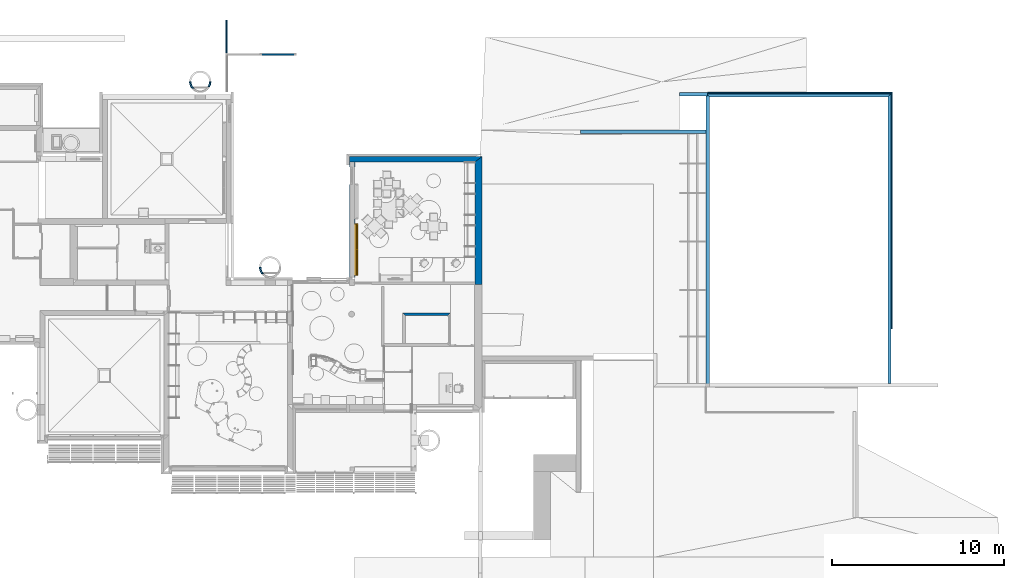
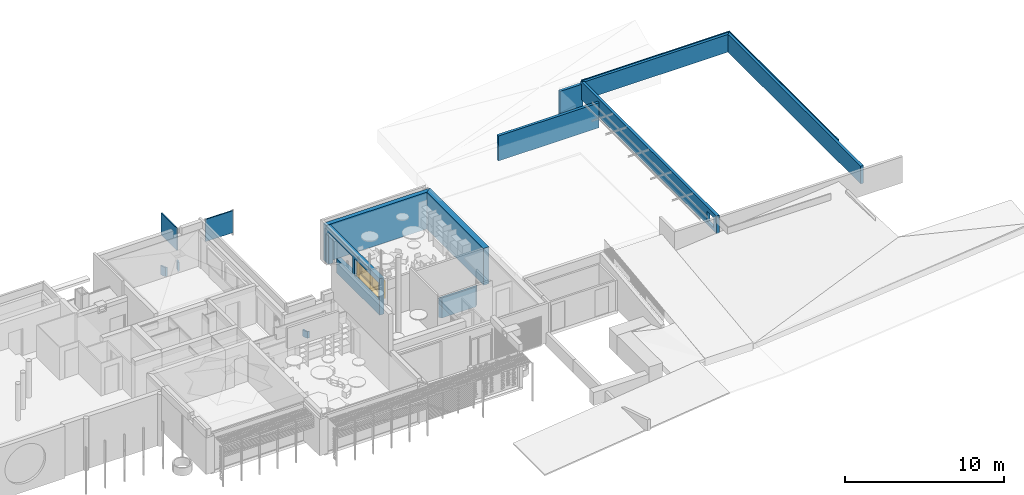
# One storey, part 27 of 64: 16 walls, 1 window, 4 openings.
"""IFC2X3 building model written with IfcOpenShell, lengths in metres."""

from ifc_helpers import new_model, entity, si_unit, converted_unit, derived_unit, direction, frame, frame_2d, origin, origin_2d_with_axis, place, context, subcontext, project, spatial, polyline, circle_curve, parameter, trimmed, segment, composite_curve, rectangle, outline, extrude, faceted_brep, source, transform, mapped, material, layer, layer_set, layer_usage, type_object, type_shapes, element, fill, save


model = new_model("IFC2X3")

# Units and contexts
model_context = context("Model", 3, precision=1e-05, world=origin(), true_north=direction((6.123031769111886e-17, 1.0)))
body_context = subcontext(model_context, "Body", "Model", "MODEL_VIEW")
ifc_project = project(units=[si_unit("LENGTHUNIT", "METRE"), si_unit("AREAUNIT", "SQUARE_METRE"), si_unit("VOLUMEUNIT", "CUBIC_METRE"), converted_unit("PLANEANGLEUNIT", "DEGREE", entity("IfcRatioMeasure", 0.017453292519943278), si_unit("PLANEANGLEUNIT", "RADIAN"), dimensions=[0, 0, 0, 0, 0, 0, 0]), si_unit("MASSUNIT", "GRAM", prefix="KILO"), derived_unit("MASSDENSITYUNIT", [(si_unit("MASSUNIT", "GRAM", prefix="KILO"), 1), (si_unit("LENGTHUNIT", "METRE"), -3)]), derived_unit("MOMENTOFINERTIAUNIT", [(si_unit("LENGTHUNIT", "METRE"), 4)]), si_unit("TIMEUNIT", "SECOND"), si_unit("FREQUENCYUNIT", "HERTZ"), si_unit("THERMODYNAMICTEMPERATUREUNIT", "DEGREE_CELSIUS"), derived_unit("THERMALTRANSMITTANCEUNIT", [(si_unit("MASSUNIT", "GRAM", prefix="KILO"), 1), (si_unit("THERMODYNAMICTEMPERATUREUNIT", "KELVIN"), -1), (si_unit("TIMEUNIT", "SECOND"), -3)]), derived_unit("THERMALCONDUCTANCEUNIT", [(si_unit("MASSUNIT", "GRAM", prefix="KILO"), 1), (si_unit("LENGTHUNIT", "METRE"), 1), (si_unit("THERMODYNAMICTEMPERATUREUNIT", "KELVIN"), -1), (si_unit("TIMEUNIT", "SECOND"), -3)]), derived_unit("VOLUMETRICFLOWRATEUNIT", [(si_unit("LENGTHUNIT", "METRE"), 3), (si_unit("TIMEUNIT", "SECOND"), -1)]), derived_unit("MASSFLOWRATEUNIT", [(si_unit("MASSUNIT", "GRAM", prefix="KILO"), 1), (si_unit("TIMEUNIT", "SECOND"), -1)]), derived_unit("ROTATIONALFREQUENCYUNIT", [(si_unit("TIMEUNIT", "SECOND"), -1)]), si_unit("ELECTRICCURRENTUNIT", "AMPERE"), si_unit("ELECTRICVOLTAGEUNIT", "VOLT"), si_unit("POWERUNIT", "WATT"), si_unit("FORCEUNIT", "NEWTON", prefix="KILO"), si_unit("ILLUMINANCEUNIT", "LUX"), si_unit("LUMINOUSFLUXUNIT", "LUMEN"), si_unit("LUMINOUSINTENSITYUNIT", "CANDELA"), derived_unit("USERDEFINED", [(si_unit("MASSUNIT", "GRAM", prefix="KILO"), -1), (si_unit("LENGTHUNIT", "METRE"), -2), (si_unit("TIMEUNIT", "SECOND"), 3), (si_unit("LUMINOUSFLUXUNIT", "LUMEN"), 1)]), derived_unit("USERDEFINED", [(si_unit("MASSUNIT", "GRAM", prefix="KILO"), 1), (si_unit("LENGTHUNIT", "METRE"), 3), (si_unit("TIMEUNIT", "SECOND"), -3), (si_unit("ELECTRICCURRENTUNIT", "AMPERE"), -2)]), derived_unit("USERDEFINED", [(si_unit("LENGTHUNIT", "METRE"), 2), (si_unit("TIMEUNIT", "SECOND"), -2)]), derived_unit("SOUNDPOWERUNIT", [(si_unit("MASSUNIT", "GRAM", prefix="KILO"), 1), (si_unit("LENGTHUNIT", "METRE"), 2), (si_unit("TIMEUNIT", "SECOND"), -3)]), derived_unit("SOUNDPRESSUREUNIT", [(si_unit("MASSUNIT", "GRAM", prefix="KILO"), 1), (si_unit("LENGTHUNIT", "METRE"), -1), (si_unit("TIMEUNIT", "SECOND"), -2)]), derived_unit("LINEARVELOCITYUNIT", [(si_unit("LENGTHUNIT", "METRE"), 1), (si_unit("TIMEUNIT", "SECOND"), -1)]), si_unit("PRESSUREUNIT", "PASCAL"), derived_unit("USERDEFINED", [(si_unit("LENGTHUNIT", "METRE"), -2), (si_unit("MASSUNIT", "GRAM", prefix="KILO"), 1), (si_unit("TIMEUNIT", "SECOND"), -2)]), derived_unit("LINEARFORCEUNIT", [(si_unit("MASSUNIT", "GRAM", prefix="KILO"), 1), (si_unit("LENGTHUNIT", "METRE"), 1), (si_unit("TIMEUNIT", "SECOND"), -2), (si_unit("LENGTHUNIT", "METRE"), -1)]), derived_unit("PLANARFORCEUNIT", [(si_unit("MASSUNIT", "GRAM", prefix="KILO"), 1), (si_unit("LENGTHUNIT", "METRE"), 1), (si_unit("TIMEUNIT", "SECOND"), -2), (si_unit("LENGTHUNIT", "METRE"), -2)]), derived_unit("SPECIFICHEATCAPACITYUNIT", [(si_unit("LENGTHUNIT", "METRE"), 2), (si_unit("TIMEUNIT", "SECOND"), -2), (si_unit("THERMODYNAMICTEMPERATUREUNIT", "KELVIN"), -1)]), derived_unit("VAPORPERMEABILITYUNIT", [(si_unit("TIMEUNIT", "SECOND"), 1), (si_unit("LENGTHUNIT", "METRE"), -1)]), derived_unit("DYNAMICVISCOSITYUNIT", [(si_unit("MASSUNIT", "GRAM", prefix="KILO"), 1), (si_unit("LENGTHUNIT", "METRE"), -1), (si_unit("TIMEUNIT", "SECOND"), -1)]), derived_unit("THERMALEXPANSIONCOEFFICIENTUNIT", [(si_unit("THERMODYNAMICTEMPERATUREUNIT", "KELVIN"), -1)])], contexts=[model_context])

# Site, building, storey
site_placement = place(None, origin())
site = spatial("IfcSite", under=ifc_project, at=site_placement, Name="Default", CompositionType="ELEMENT")
building_placement = place(site_placement, origin())
building = spatial("IfcBuilding", under=site, at=building_placement, CompositionType="ELEMENT")
storey_placement = place(building_placement, origin())
storey = spatial("IfcBuildingStorey", under=building, at=storey_placement, Name="REZ-DE-CHAUSSÉE", CompositionType="ELEMENT", Elevation=0.0)

# Wall
ifc_material_1 = material(Name="Appareillage - Pierre taillé")
ifc_layer_1 = layer(ifc_material_1, 0.31)
ifc_layer_set_1 = layer_set([ifc_layer_1], Name="Mur de base:Struct. - Pierre 310")
ifc_layer_usage_1 = layer_usage(ifc_layer_set_1, "AXIS2", "NEGATIVE", 0.155)
wall_type_1 = type_object("IfcWallType", Name="Mur de base:Struct. - Pierre 310", PredefinedType="STANDARD", material=ifc_layer_set_1)
wall_1_placement = place(storey_placement, frame((120.68075227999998, 22.342209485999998, 0.0)))
element("IfcWallStandardCase", 1, at=wall_1_placement, inside=storey, type_object=wall_type_1, material=ifc_layer_usage_1, Name="MurExt-001", ObjectType="Mur de base:Struct. - Pierre 310", context=body_context, shape_type="SweptSolid", body=[
    extrude(outline(polyline([(7.310000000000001, -0.15499999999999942), (7.720000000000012, 0.15499999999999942), (0.0, 0.15499999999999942), (0.0, -0.15499999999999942), (0.04000000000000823, -0.15499999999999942), (0.29000000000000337, -0.15499999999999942), (0.3299999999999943, -0.15499999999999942), (7.310000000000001, -0.15499999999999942)])), origin(), (0.0, 0.0, 1.0), 2.8199999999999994),
])

# Wall, opening
ifc_material_2 = material(Name="Béton - Parpaing (Blocs)")
ifc_layer_2 = layer(ifc_material_2, 0.2)
ifc_layer_set_2 = layer_set([ifc_layer_2], Name="Mur de base:Struct. - Parpaing béton 200")
ifc_layer_usage_2 = layer_usage(ifc_layer_set_2, "AXIS2", "NEGATIVE", 0.1)
wall_type_2 = type_object("IfcWallType", Name="Mur de base:Struct. - Parpaing béton 200", PredefinedType="STANDARD", material=ifc_layer_set_2)
wall_2_placement = place(storey_placement, frame((141.56275227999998, 9.087209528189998, 2.8499999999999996), z_axis=(0.0, 0.0, 1.0), x_axis=(0.0, 1.0, 0.0)))
wall_2 = element("IfcWallStandardCase", 2, at=wall_2_placement, inside=storey, type_object=wall_type_2, material=ifc_layer_usage_2, Name="MurExt-021", ObjectType="Mur de base:Struct. - Parpaing béton 200", context=body_context, shape_type="SweptSolid", body=[
    extrude(outline(polyline([(16.887999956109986, -0.10000000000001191), (17.08799995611, 0.0999999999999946), (0.2, 0.0999999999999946), (0.0, 0.0999999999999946), (0.0, 0.0), (0.0, -0.10000000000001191), (0.2, -0.10000000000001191), (16.887999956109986, -0.10000000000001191)])), origin(), (0.0, 0.0, 1.0), 1.3600000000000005),
])
opening_1_placement = place(wall_2_placement, origin())
element("IfcOpeningElement", 3, at=opening_1_placement, cuts=wall_2, Name="MurExt-021", ObjectType="Opening", context=body_context, shape_type="SweptSolid", body=[
    extrude(rectangle(XDim=0.8, YDim=0.8, at=origin_2d_with_axis()), frame((0.8000000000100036, -0.3000000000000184, 0.6200000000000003), z_axis=(0.0, 1.0, 0.0), x_axis=(0.0, 0.0, -1.0)), (0.0, 0.0, 1.0), 0.400000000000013),
])

# Walls
wall_3_placement = place(storey_placement, frame((141.46275228, 26.0752094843, 2.8499999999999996)))
element("IfcWallStandardCase", 4, at=wall_3_placement, inside=storey, type_object=wall_type_2, material=ifc_layer_usage_2, Name="MurExt-024", ObjectType="Mur de base:Struct. - Parpaing béton 200", context=body_context, shape_type="SweptSolid", body=[
    extrude(outline(polyline([(10.576000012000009, -0.09999999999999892), (10.776000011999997, 0.09999999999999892), (0.0, 0.09999999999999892), (0.1999999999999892, -0.09999999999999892), (10.576000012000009, -0.09999999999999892)])), origin(), (0.0, 0.0, 1.0), 1.3600000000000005),
])
wall_4_placement = place(storey_placement, frame((152.138752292, 26.1752094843, 2.8499999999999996), z_axis=(0.0, 0.0, 1.0), x_axis=(0.0, -1.0, 0.0)))
element("IfcWallStandardCase", 5, at=wall_4_placement, inside=storey, type_object=wall_type_2, material=ifc_layer_usage_2, Name="MurExt-023", ObjectType="Mur de base:Struct. - Parpaing béton 200", context=body_context, shape_type="SweptSolid", body=[
    extrude(outline(polyline([(16.88799995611, -0.10000000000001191), (16.88799995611, 0.0999999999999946), (0.0, 0.0999999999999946), (0.20000000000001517, -0.10000000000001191), (16.88799995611, -0.10000000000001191)])), origin(), (0.0, 0.0, 1.0), 1.3600000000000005),
])
wall_5_placement = place(storey_placement, frame((141.46275228, 23.937209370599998, 2.05), z_axis=(0.0, 0.0, 1.0), x_axis=(-1.0, 0.0, 0.0)))
element("IfcWallStandardCase", 6, at=wall_5_placement, inside=storey, type_object=wall_type_2, material=ifc_layer_usage_2, Name="MurExt-021", ObjectType="Mur de base:Struct. - Parpaing béton 200", context=body_context, shape_type="SweptSolid", body=[
    extrude(rectangle(XDim=7.311999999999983, YDim=0.19999999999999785, at=frame_2d((3.6559999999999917, 0.0), x_axis=(-1.0, 0.0))), origin(), (0.0, 0.0, 1.0), 1.92),
])
wall_6_placement = place(storey_placement, frame((141.54075228, 26.137235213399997, 2.05), z_axis=(0.0, 0.0, 1.0), x_axis=(-1.0, 0.0, 0.0)))
element("IfcWallStandardCase", 7, at=wall_6_placement, inside=storey, type_object=wall_type_2, material=ifc_layer_usage_2, Name="MurExt-021", ObjectType="Mur de base:Struct. - Parpaing béton 200", context=body_context, shape_type="SweptSolid", body=[
    extrude(rectangle(XDim=1.6399998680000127, YDim=0.19999999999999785, at=frame_2d((0.8199999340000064, 0.0), x_axis=(-1.0, 0.0))), origin(), (0.0, 0.0, 1.0), 2.0),
])
ifc_layer_3 = layer(ifc_material_1, 0.4099999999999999)
ifc_layer_set_3 = layer_set([ifc_layer_3], Name="Mur de base:Struct. - Pierre 410")
ifc_layer_usage_3 = layer_usage(ifc_layer_set_3, "AXIS2", "NEGATIVE", 0.20499999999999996)
wall_type_3 = type_object("IfcWallType", Name="Mur de base:Struct. - Pierre 410", PredefinedType="STANDARD", material=ifc_layer_set_3)
wall_7_placement = place(storey_placement, frame((128.19575228, 22.497209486, 0.0), z_axis=(0.0, 0.0, 1.0), x_axis=(0.0, -1.0, 0.0)))
element("IfcWallStandardCase", 8, at=wall_7_placement, inside=storey, type_object=wall_type_3, material=ifc_layer_usage_3, Name="MurExt-002", ObjectType="Mur de base:Struct. - Pierre 410", context=body_context, shape_type="SweptSolid", body=[
    extrude(outline(polyline([(7.450000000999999, -0.20499999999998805), (7.450000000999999, 0.20500000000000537), (0.0, 0.20500000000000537), (0.30999999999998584, -0.20499999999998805), (7.290000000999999, -0.20499999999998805), (7.450000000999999, -0.20499999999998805)])), origin(), (0.0, 0.0, 1.0), 2.8199999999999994),
])
ifc_layer_4 = layer(ifc_material_1, 0.16)
ifc_layer_set_4 = layer_set([ifc_layer_4], Name="Mur de base:Struct. - Pierre 160")
ifc_layer_usage_4 = layer_usage(ifc_layer_set_4, "AXIS2", "NEGATIVE", 0.08)
wall_type_4 = type_object("IfcWallType", Name="Mur de base:Struct. - Pierre 160", PredefinedType="STANDARD", material=ifc_layer_set_4)
wall_8_placement = place(storey_placement, frame((123.79075228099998, 13.327209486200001, 0.0)))
element("IfcWallStandardCase", 9, at=wall_8_placement, inside=storey, type_object=wall_type_4, material=ifc_layer_usage_4, Name="MurExt-012", ObjectType="Mur de base:Struct. - Pierre 160", context=body_context, shape_type="SweptSolid", body=[
    extrude(outline(polyline([(2.610000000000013, -0.0800000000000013), (2.6250000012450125, -0.06499999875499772), (2.7700000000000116, 0.07999999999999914), (0.0, 0.07999999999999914), (0.15999999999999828, -0.0800000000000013), (2.610000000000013, -0.0800000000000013)])), origin(), (0.0, 0.0, 1.0), 1.53),
])
ifc_layer_5 = layer(ifc_material_1, 0.1)
ifc_layer_set_5 = layer_set([ifc_layer_5], Name="Mur de base:Struct. - Pierre 100")
ifc_layer_usage_5 = layer_usage(ifc_layer_set_5, "AXIS2", "POSITIVE", -0.05)
wall_type_5 = type_object("IfcWallType", Name="Mur de base:Struct. - Pierre 100", PredefinedType="STANDARD", material=ifc_layer_set_5)
wall_9_placement = place(storey_placement, frame((111.60800783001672, 26.4404170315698, -0.49999999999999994), z_axis=(0.0, 0.0, 1.0), x_axis=(-1.0, 0.0, 0.0)))
element("IfcWallStandardCase", 10, at=wall_9_placement, inside=storey, type_object=wall_type_5, material=ifc_layer_usage_5, Name="MurExt-004", ObjectType="Mur de base:Struct. - Pierre 100", context=body_context, shape_type="SweptSolid", body=[
    extrude(outline(composite_curve([segment(trimmed(circle_curve(frame_2d((-0.3927444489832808, -0.4267924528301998), x_axis=(1.0, 0.0)), 0.63), [parameter(0.0)], [parameter(38.24661987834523)], True, "PARAMETER"), True, "CONTINUOUS"), segment(polyline([(0.1020282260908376, -0.03679245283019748), (-0.0338572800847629, -0.03679245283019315)]), True, "CONTINUOUS"), segment(trimmed(circle_curve(frame_2d((-0.3927444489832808, -0.4267924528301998), x_axis=(1.0, 0.0)), 0.53), [parameter(33.17306602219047)], [parameter(47.37900904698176)], True, "PARAMETER"), False, "CONTINUOUS"), segment(trimmed(circle_curve(frame_2d((-0.3927444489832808, -0.4267924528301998), x_axis=(1.0, 0.0)), 0.53), [parameter(4.579998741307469e-13)], [parameter(33.17306602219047)], True, "PARAMETER"), False, "CONTINUOUS"), segment(polyline([(0.13725555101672, -0.42679245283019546), (0.23725555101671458, -0.4267924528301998)]), True, "CONTINUOUS")], self_intersect=False)), origin(), (0.0, 0.0, 1.0), 0.7),
])
wall_10_placement = place(storey_placement, frame((115.67800782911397, 15.630417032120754, -0.1), z_axis=(0.0, 0.0, 1.0), x_axis=(-1.0, 0.0, 0.0)))
element("IfcWallStandardCase", 11, at=wall_10_placement, inside=storey, type_object=wall_type_5, material=ifc_layer_usage_5, Name="MurExt-004", ObjectType="Mur de base:Struct. - Pierre 100", context=body_context, shape_type="SweptSolid", body=[
    extrude(outline(composite_curve([segment(trimmed(circle_curve(frame_2d((-0.3927444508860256, -0.42679245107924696), x_axis=(1.0, 0.0)), 0.63), [parameter(0.0)], [parameter(38.24661969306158)], True, "PARAMETER"), True, "CONTINUOUS"), segment(polyline([(0.10202822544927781, -0.0367924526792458), (-0.033857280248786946, -0.03679245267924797)]), True, "CONTINUOUS"), segment(trimmed(circle_curve(frame_2d((-0.3927444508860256, -0.42679245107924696), x_axis=(1.0, 0.0)), 0.53), [parameter(33.17306581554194)], [parameter(47.37900879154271)], True, "PARAMETER"), False, "CONTINUOUS"), segment(trimmed(circle_curve(frame_2d((-0.3927444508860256, -0.42679245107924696), x_axis=(1.0, 0.0)), 0.53), [parameter(4.579998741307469e-13)], [parameter(33.17306581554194)], True, "PARAMETER"), False, "CONTINUOUS"), segment(polyline([(0.13725554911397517, -0.42679245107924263), (0.23725554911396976, -0.42679245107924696)]), True, "CONTINUOUS")], self_intersect=False)), origin(), (0.0, 0.0, 1.0), 0.49999999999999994),
])
wall_11_placement = place(storey_placement, frame((112.58075227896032, 26.867209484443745, -0.49999999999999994), z_axis=(0.0, 0.0, 1.0), x_axis=(0.7853534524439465, -0.6190476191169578, 0.0)))
element("IfcWallStandardCase", 12, at=wall_11_placement, inside=storey, type_object=wall_type_5, material=ifc_layer_usage_5, Name="MurExt-004", ObjectType="Mur de base:Struct. - Pierre 100", context=body_context, shape_type="SweptSolid", body=[
    extrude(outline(composite_curve([segment(trimmed(circle_curve(frame_2d((-0.455505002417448, -0.3590476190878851), x_axis=(1.0, 0.0)), 0.6300000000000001), [parameter(10.839025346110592)], [parameter(38.246619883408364)], True, "PARAMETER"), True, "CONTINUOUS"), segment(polyline([(0.03926767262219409, 0.03095238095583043), (-0.039267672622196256, -0.03095238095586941)]), True, "CONTINUOUS"), segment(trimmed(circle_curve(frame_2d((-0.455505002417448, -0.3590476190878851), x_axis=(1.0, 0.0)), 0.5300000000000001), [parameter(5.073553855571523)], [parameter(38.246619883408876)], True, "PARAMETER"), False, "CONTINUOUS"), segment(polyline([(0.07241845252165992, -0.31217731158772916), (0.1632554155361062, -0.24057591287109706)]), True, "CONTINUOUS")], self_intersect=False)), origin(), (0.0, 0.0, 1.0), 0.7000000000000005),
])
ifc_material_3 = material(Name="Enduit - Jaune nature")
ifc_layer_6 = layer(ifc_material_3, 0.022)
ifc_material_4 = material(Name="Isolation - Fibre de verre")
ifc_layer_7 = layer(ifc_material_4, 0.04)
ifc_layer_set_6 = layer_set([ifc_layer_6, ifc_layer_7], Name="Mur de base:ABA ITE enduit soubassements 62")
ifc_layer_usage_6 = layer_usage(ifc_layer_set_6, "AXIS2", "NEGATIVE", 0.031)
wall_type_6 = type_object("IfcWallType", Name="Mur de base:ABA ITE enduit soubassements 62", PredefinedType="STANDARD", material=ifc_layer_set_6)
wall_12_placement = place(storey_placement, frame((152.269752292, 26.2372094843, 3.9099999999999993), z_axis=(0.0, 0.0, 1.0), x_axis=(0.0, -1.0, 0.0)))
element("IfcWallStandardCase", 13, at=wall_12_placement, inside=storey, type_object=wall_type_6, material=ifc_layer_usage_6, Name="MurExt-022", ObjectType="Mur de base:ABA ITE enduit soubassements 62", context=body_context, shape_type="SweptSolid", body=[
    extrude(outline(polyline([(13.750000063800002, -0.03100000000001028), (13.750000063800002, 0.030999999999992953), (0.0, 0.030999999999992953), (0.06200000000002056, -0.03100000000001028), (13.750000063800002, -0.03100000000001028)])), origin(), (0.0, 0.0, 1.0), 0.3400000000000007),
])
wall_13_placement = place(storey_placement, frame((141.54075228, 26.206209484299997, 3.9099999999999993)))
element("IfcWallStandardCase", 14, at=wall_13_placement, inside=storey, type_object=wall_type_6, material=ifc_layer_usage_6, Name="MurExt-023", ObjectType="Mur de base:ABA ITE enduit soubassements 62", context=body_context, shape_type="SweptSolid", body=[
    extrude(outline(polyline([(10.698000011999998, -0.030999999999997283), (10.760000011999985, 0.031000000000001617), (0.0, 0.031000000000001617), (0.0, -0.030999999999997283), (10.698000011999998, -0.030999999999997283)])), origin(), (0.0, 0.0, 1.0), 0.3400000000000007),
])

# Wall, openings, window
ifc_material_5 = material(Name="Métal - Fer")
ifc_layer_8 = layer(ifc_material_5, 0.037)
ifc_material_6 = material(Name="Air - Vide d'air")
ifc_layer_9 = layer(ifc_material_6, 0.035)
ifc_layer_10 = layer(ifc_material_4, 0.04)
ifc_layer_11 = layer(ifc_material_4, 0.145)
ifc_material_7 = material(Name="Bois - Panneaux de particules")
ifc_layer_12 = layer(ifc_material_7, 0.012)
ifc_layer_13 = layer(ifc_material_6, 0.048)
ifc_material_8 = material(Name="Plâtre - Plaques de plâtre")
ifc_layer_14 = layer(ifc_material_8, 0.013)
ifc_layer_set_7 = layer_set([ifc_layer_8, ifc_layer_9, ifc_layer_10, ifc_layer_11, ifc_layer_12, ifc_layer_13, ifc_layer_14], Name="Mur de base:ABA MOB ITE bardage 330")
ifc_layer_usage_7 = layer_usage(ifc_layer_set_7, "AXIS2", "NEGATIVE", 0.165)
wall_type_7 = type_object("IfcWallType", Name="Mur de base:ABA MOB ITE bardage 330", PredefinedType="STANDARD", material=ifc_layer_set_7)
wall_14_placement = place(storey_placement, frame((120.84575227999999, 15.467209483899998, 0.0), z_axis=(0.0, 0.0, 1.0), x_axis=(0.0, 1.0, 0.0)))
wall_14 = element("IfcWallStandardCase", 15, at=wall_14_placement, inside=storey, type_object=wall_type_7, material=ifc_layer_usage_7, Name="MurExt-010", ObjectType="Mur de base:ABA MOB ITE bardage 330", context=body_context, shape_type="SweptSolid", body=[
    extrude(rectangle(XDim=6.720000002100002, YDim=0.3299999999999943, at=frame_2d((3.360000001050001, 0.0), x_axis=(1.0, 0.0))), origin(), (0.0, 0.0, 1.0), 2.8),
])
opening_2_placement = place(wall_14_placement, frame((-15.467209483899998, 120.84575227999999, 0.0), z_axis=(0.0, 0.0, 1.0), x_axis=(0.0, -1.0, 0.0)))
element("IfcOpeningElement", 16, at=opening_2_placement, cuts=wall_14, Name="MurExt-010", ObjectType="Opening", context=body_context, shape_type="SweptSolid", body=[
    extrude(rectangle(XDim=2.44, YDim=1.0400000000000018, at=frame_2d((0.0, 2.1649348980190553e-15), x_axis=(1.0, 0.0))), frame((121.17905227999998, 21.38720948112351, 1.22), z_axis=(-1.0, 0.0, 0.0), x_axis=(0.0, 0.0, -1.0)), (0.0, 0.0, 1.0), 0.6666000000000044),
])
opening_3_placement = place(wall_14_placement, frame((-15.467209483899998, 120.84575227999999, 0.0), z_axis=(0.0, 0.0, 1.0), x_axis=(0.0, -1.0, 0.0)))
element("IfcOpeningElement", 17, at=opening_3_placement, cuts=wall_14, Name="MurExt-010", ObjectType="Opening", context=body_context, shape_type="SweptSolid", body=[
    extrude(rectangle(XDim=1.36, YDim=2.04, at=frame_2d((0.0, -2.1094237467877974e-15), x_axis=(1.0, 0.0))), frame((121.17905227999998, 19.88720948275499, 1.7599999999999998), z_axis=(-1.0, 0.0, 0.0), x_axis=(0.0, 0.0, -1.0)), (0.0, 0.0, 1.0), 0.6666000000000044),
])
opening_4_placement = place(wall_14_placement, frame((-15.467209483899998, 120.84575227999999, 0.0), z_axis=(0.0, 0.0, 1.0), x_axis=(0.0, -1.0, 0.0)))
opening_4 = element("IfcOpeningElement", 18, at=opening_4_placement, cuts=wall_14, Name="MurExt-010", ObjectType="Opening", context=body_context, shape_type="SweptSolid", body=[
    extrude(rectangle(XDim=1.36, YDim=3.04, at=frame_2d((-9.992007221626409e-16, 0.0), x_axis=(0.0, 1.0))), frame((121.17905227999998, 17.087209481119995, 1.7599999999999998), z_axis=(-1.0, 0.0, 0.0), x_axis=(0.0, -1.0, 0.0)), (0.0, 0.0, 1.0), 0.6666000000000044),
])
ifc_material_9 = material(Name="Peinture - Anthracite")
window_style = type_object("IfcWindowStyle", Name="Fen-003", ConstructionType="NOTDEFINED", OperationType="NOTDEFINED", ParameterTakesPrecedence=False, Sizeable=False, material=ifc_material_9)
shared_shape = source(origin(), body_context, "Body", "Brep", [
    faceted_brep([(0.0, -0.6633, 0.0), (0.0, -0.5633, 0.0), (3.0399999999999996, -0.5633, 0.0), (3.0399999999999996, -0.6633, 0.0), (0.0, -0.6633, 1.36), (0.0, -0.5633, 1.36), (3.0399999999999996, -0.5633, 1.36), (0.05, -0.5633, 0.06000000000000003), (2.9899999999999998, -0.5633, 0.06000000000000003), (2.9899999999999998, -0.5633, 1.31), (0.05, -0.5633, 1.31), (3.0399999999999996, -0.6633, 1.36), (0.05, -0.6633, 0.06000000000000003), (0.05, -0.6633, 1.31), (2.9899999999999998, -0.6633, 1.31), (2.9899999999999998, -0.6633, 0.06000000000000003), (0.05, -0.6133, 0.06000000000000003), (1.5550000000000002, -0.6133, 0.06000000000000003), (1.5550000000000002, -0.6133, 1.31), (0.05, -0.6133, 1.31), (1.4849999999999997, -0.6133, 1.24), (1.4849999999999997, -0.6133, 0.11000000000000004), (0.12000000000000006, -0.6133, 0.11000000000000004), (0.12000000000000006, -0.6133, 1.24), (1.5550000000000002, -0.5883, 0.06000000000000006), (0.05, -0.5883, 0.06000000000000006), (1.5550000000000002, -0.5633, 0.06000000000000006), (1.5549999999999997, -0.5883, 1.31), (1.5549999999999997, -0.5633, 1.31), (0.05, -0.5883, 1.31), (1.485, -0.5633, 1.24), (1.485, -0.5633, 0.11000000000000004), (0.12000000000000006, -0.5633, 0.11000000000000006), (0.12000000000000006, -0.5633, 1.24), (0.12000000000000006, -0.5932999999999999, 0.11000000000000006), (0.12000000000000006, -0.5832999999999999, 0.11000000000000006), (1.4849999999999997, -0.5832999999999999, 0.11000000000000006), (1.4849999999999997, -0.5932999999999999, 0.11000000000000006), (0.12000000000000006, -0.5932999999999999, 1.24), (0.12000000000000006, -0.5832999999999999, 1.24), (1.4849999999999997, -0.5832999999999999, 1.24), (1.485, -0.5932999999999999, 1.24), (1.4849999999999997, -0.6633, 0.06000000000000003), (1.4849999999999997, -0.6633, 1.31), (2.92, -0.6633, 1.24), (2.92, -0.6633, 0.11000000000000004), (1.5550000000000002, -0.6633, 0.11000000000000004), (1.5550000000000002, -0.6633, 1.24), (2.9899999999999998, -0.6383, 0.06000000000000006), (1.4849999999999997, -0.6383, 0.06000000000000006), (1.4849999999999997, -0.6133, 0.06000000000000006), (2.9899999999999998, -0.6133, 0.06000000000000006), (2.9899999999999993, -0.6383, 1.31), (2.9899999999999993, -0.6133, 1.31), (1.4849999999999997, -0.6133, 1.31), (1.4849999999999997, -0.6383, 1.31), (2.92, -0.6133, 1.24), (2.92, -0.6133, 0.11000000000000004), (1.5550000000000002, -0.6133, 0.11000000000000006), (1.5549999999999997, -0.6133, 1.24), (1.5550000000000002, -0.6433, 0.11000000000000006), (1.5550000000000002, -0.6333, 0.11000000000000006), (2.92, -0.6333, 0.11000000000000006), (2.92, -0.6433, 0.11000000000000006), (1.5549999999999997, -0.6433, 1.24), (1.5549999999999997, -0.6333, 1.24), (2.92, -0.6333, 1.24), (2.92, -0.6433, 1.24), (0.0, -0.5633, 1.3399999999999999), (3.0399999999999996, -0.5633, 1.3399999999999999), (0.0, -0.32330000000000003, 1.3399999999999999), (3.0399999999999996, -0.32330000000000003, 1.3399999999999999), (3.0399999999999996, -0.32330000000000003, 1.36), (0.0, -0.32330000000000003, 1.36), (0.020000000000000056, -0.5633, 0.020000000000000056), (0.020000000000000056, -0.32330000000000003, 0.020000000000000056), (0.020000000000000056, -0.32330000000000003, 1.3399999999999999), (0.020000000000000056, -0.5633, 1.3399999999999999), (0.0, -0.5633, 0.020000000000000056), (0.0, -0.32330000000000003, 0.020000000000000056), (3.0399999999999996, -0.5633, 0.020000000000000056), (3.0399999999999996, -0.32330000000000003, 0.020000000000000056), (3.02, -0.5633, 0.020000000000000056), (3.02, -0.32330000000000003, 0.020000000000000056), (3.02, -0.3232999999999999, 1.3399999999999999), (3.02, -0.5633, 1.3399999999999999), (0.0, -0.32330000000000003, 0.0), (3.0399999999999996, -0.32330000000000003, 0.0)], [[[0, 1, 2, 3]], [[4, 5, 1, 0]], [[1, 5, 6, 2], [7, 8, 9, 10]], [[3, 2, 6, 11]], [[0, 3, 11, 4], [12, 13, 14, 15]], [[11, 6, 5, 4]], [[15, 8, 7, 12]], [[14, 9, 8, 15]], [[13, 10, 9, 14]], [[12, 7, 10, 13]], [[16, 17, 18, 19], [20, 21, 22, 23]], [[24, 17, 16, 25, 7, 26]], [[27, 18, 17, 24, 26, 28]], [[28, 10, 29, 19, 18, 27]], [[10, 7, 25, 16, 19, 29]], [[20, 30, 31, 21]], [[31, 32, 22, 21]], [[32, 33, 23, 22]], [[23, 33, 30, 20]], [[28, 26, 7, 10], [31, 30, 33, 32]], [[16, 17, 18, 19], [22, 23, 20, 21]], [[7, 26, 28, 10], [32, 33, 30, 31]], [[34, 35, 36, 37]], [[38, 39, 35, 34]], [[35, 39, 40, 36]], [[37, 36, 40, 41]], [[34, 37, 41, 38]], [[41, 40, 39, 38]], [[42, 15, 14, 43], [44, 45, 46, 47]], [[48, 15, 42, 49, 50, 51]], [[52, 14, 15, 48, 51, 53]], [[53, 54, 55, 43, 14, 52]], [[54, 50, 49, 42, 43, 55]], [[44, 56, 57, 45]], [[57, 58, 46, 45]], [[58, 59, 47, 46]], [[47, 59, 56, 44]], [[53, 51, 50, 54], [57, 56, 59, 58]], [[42, 15, 14, 43], [46, 47, 44, 45]], [[50, 51, 53, 54], [58, 59, 56, 57]], [[60, 61, 62, 63]], [[64, 65, 61, 60]], [[61, 65, 66, 62]], [[63, 62, 66, 67]], [[60, 63, 67, 64]], [[67, 66, 65, 64]], [[68, 69, 6, 5]], [[68, 70, 71, 69]], [[69, 71, 72, 6]], [[5, 6, 72, 73]], [[70, 68, 5, 73]], [[71, 70, 73, 72]], [[68, 5, 6, 69]], [[70, 73, 72, 71]], [[74, 75, 76, 77]], [[74, 78, 79, 75]], [[75, 79, 70, 76]], [[77, 76, 70, 68]], [[78, 74, 77, 68]], [[79, 78, 68, 70]], [[80, 81, 71, 69]], [[80, 82, 83, 81]], [[81, 83, 84, 71]], [[69, 71, 84, 85]], [[82, 80, 69, 85]], [[83, 82, 85, 84]], [[1, 2, 80, 78]], [[1, 86, 87, 2]], [[2, 87, 81, 80]], [[78, 80, 81, 79]], [[86, 1, 78, 79]], [[87, 86, 79, 81]], [[1, 78, 80, 2]], [[86, 79, 81, 87]]]),
])
type_shapes(window_style, [shared_shape])
window_placement = place(opening_4_placement, frame((120.51245227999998, 15.567209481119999, 1.08), z_axis=(0.0, 0.0, 1.0), x_axis=(0.0, 1.0, 0.0)))
window = element("IfcWindow", 19, at=window_placement, inside=storey, type_object=window_style, material=ifc_material_9, Name="Fen-003 50040:Fen-003 50040", ObjectType="Fen-003 50040:Fen-003 50040", OverallHeight=1.36, OverallWidth=3.0399999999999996, context=body_context, shape_type="MappedRepresentation", body=[
    mapped(shared_shape, transform((0.0, 0.0, 0.0), scale=1.0)),
])
fill(opening_4, window)

# Walls
ifc_material_10 = material(Name="Béton - Lissé")
ifc_layer_15 = layer(ifc_material_10, 0.08)
ifc_layer_set_8 = layer_set([ifc_layer_15], Name="Mur de base:Struct. - Béton 80")
ifc_layer_usage_8 = layer_usage(ifc_layer_set_8, "AXIS2", "NEGATIVE", 0.04)
wall_type_8 = type_object("IfcWallType", Name="Mur de base:Struct. - Béton 80", PredefinedType="STANDARD", material=ifc_layer_set_8)
wall_15_placement = place(storey_placement, frame((117.53075227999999, 28.457209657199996, -0.4), z_axis=(0.0, 0.0, 1.0), x_axis=(-1.0, 0.0, 0.0)))
element("IfcWallStandardCase", 20, at=wall_15_placement, inside=storey, type_object=wall_type_8, material=ifc_layer_usage_8, Name="MurExt-007", ObjectType="Mur de base:Struct. - Béton 80", context=body_context, shape_type="SweptSolid", body=[
    extrude(rectangle(XDim=1.9999999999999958, YDim=0.07999999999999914, at=frame_2d((0.9999999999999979, 0.0), x_axis=(-1.0, 0.0))), origin(), (0.0, 0.0, 1.0), 1.7),
])
wall_16_placement = place(storey_placement, frame((113.53075227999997, 30.457209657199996, -0.4), z_axis=(0.0, 0.0, 1.0), x_axis=(0.0, -1.0, 0.0)))
element("IfcWallStandardCase", 21, at=wall_16_placement, inside=storey, type_object=wall_type_8, material=ifc_layer_usage_8, Name="MurExt-007", ObjectType="Mur de base:Struct. - Béton 80", context=body_context, shape_type="SweptSolid", body=[
    extrude(rectangle(XDim=1.9600000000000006, YDim=0.08000000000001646, at=frame_2d((0.9800000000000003, 0.0), x_axis=(-1.0, 0.0))), origin(), (0.0, 0.0, 1.0), 1.7),
])

save(model, "model.ifc")
